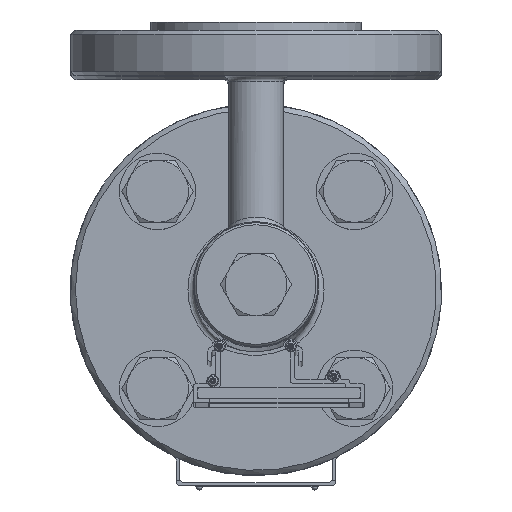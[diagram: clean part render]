
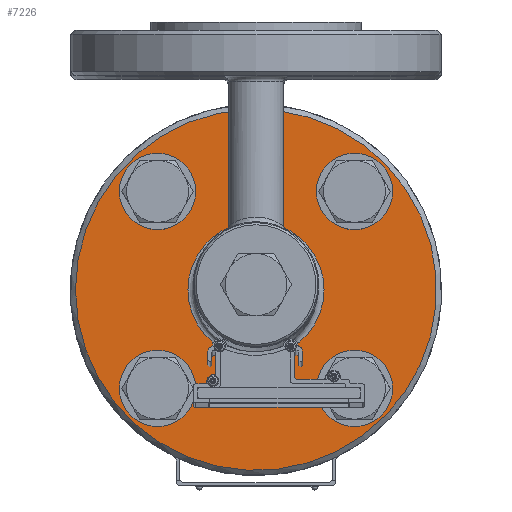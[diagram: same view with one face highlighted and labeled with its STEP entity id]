
A CAD part, top view. The second image highlights one B-rep face of the part: STEP entity #7226.
In plain terms, the highlighted planar face has unit normal (0, 0, 1).
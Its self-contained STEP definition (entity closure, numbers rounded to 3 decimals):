
#241=PLANE('',#7743);
#489=FACE_BOUND('',#1605,.T.);
#490=FACE_BOUND('',#1606,.T.);
#491=FACE_BOUND('',#1607,.T.);
#492=FACE_BOUND('',#1608,.T.);
#493=FACE_BOUND('',#1609,.T.);
#625=CIRCLE('',#7656,87.5);
#673=CIRCLE('',#7742,12.);
#674=CIRCLE('',#7744,12.);
#675=CIRCLE('',#7745,12.);
#676=CIRCLE('',#7746,33.);
#677=CIRCLE('',#7747,12.);
#1114=FACE_OUTER_BOUND('',#1604,.T.);
#1604=EDGE_LOOP('',(#5126));
#1605=EDGE_LOOP('',(#5127));
#1606=EDGE_LOOP('',(#5128));
#1607=EDGE_LOOP('',(#5129));
#1608=EDGE_LOOP('',(#5130));
#1609=EDGE_LOOP('',(#5131));
#3277=VERTEX_POINT('',#10847);
#3340=VERTEX_POINT('',#11048);
#3341=VERTEX_POINT('',#11051);
#3342=VERTEX_POINT('',#11053);
#3343=VERTEX_POINT('',#11055);
#3344=VERTEX_POINT('',#11057);
#3996=EDGE_CURVE('',#3277,#3277,#625,.T.);
#4068=EDGE_CURVE('',#3340,#3340,#673,.T.);
#4069=EDGE_CURVE('',#3341,#3341,#674,.T.);
#4070=EDGE_CURVE('',#3342,#3342,#675,.T.);
#4071=EDGE_CURVE('',#3343,#3343,#676,.T.);
#4072=EDGE_CURVE('',#3344,#3344,#677,.T.);
#5126=ORIENTED_EDGE('',*,*,#3996,.F.);
#5127=ORIENTED_EDGE('',*,*,#4069,.F.);
#5128=ORIENTED_EDGE('',*,*,#4070,.F.);
#5129=ORIENTED_EDGE('',*,*,#4071,.F.);
#5130=ORIENTED_EDGE('',*,*,#4072,.F.);
#5131=ORIENTED_EDGE('',*,*,#4068,.F.);
#7226=ADVANCED_FACE('',(#1114,#489,#490,#491,#492,#493),#241,.T.);
#7656=AXIS2_PLACEMENT_3D('',#10848,#8543,#8544);
#7742=AXIS2_PLACEMENT_3D('',#11049,#8729,#8730);
#7743=AXIS2_PLACEMENT_3D('',#11050,#8731,#8732);
#7744=AXIS2_PLACEMENT_3D('',#11052,#8733,#8734);
#7745=AXIS2_PLACEMENT_3D('',#11054,#8735,#8736);
#7746=AXIS2_PLACEMENT_3D('',#11056,#8737,#8738);
#7747=AXIS2_PLACEMENT_3D('',#11058,#8739,#8740);
#8543=DIRECTION('center_axis',(0.,0.,-1.));
#8544=DIRECTION('ref_axis',(1.,0.,0.));
#8729=DIRECTION('center_axis',(0.,0.,1.));
#8730=DIRECTION('ref_axis',(1.,0.,0.));
#8731=DIRECTION('center_axis',(0.,0.,1.));
#8732=DIRECTION('ref_axis',(1.,0.,0.));
#8733=DIRECTION('center_axis',(0.,0.,1.));
#8734=DIRECTION('ref_axis',(1.,0.,0.));
#8735=DIRECTION('center_axis',(0.,0.,1.));
#8736=DIRECTION('ref_axis',(1.,0.,0.));
#8737=DIRECTION('center_axis',(0.,0.,1.));
#8738=DIRECTION('ref_axis',(1.,0.,0.));
#8739=DIRECTION('center_axis',(0.,0.,1.));
#8740=DIRECTION('ref_axis',(1.,0.,0.));
#10847=CARTESIAN_POINT('',(-87.5,0.,26.));
#10848=CARTESIAN_POINT('Origin',(0.,0.,26.));
#11048=CARTESIAN_POINT('',(-59.73,47.73,26.));
#11049=CARTESIAN_POINT('Origin',(-47.73,47.73,26.));
#11050=CARTESIAN_POINT('Origin',(0.,0.,
26.));
#11051=CARTESIAN_POINT('',(35.73,47.73,26.));
#11052=CARTESIAN_POINT('Origin',(47.73,47.73,26.));
#11053=CARTESIAN_POINT('',(35.73,-47.73,26.));
#11054=CARTESIAN_POINT('Origin',(47.73,-47.73,26.));
#11055=CARTESIAN_POINT('',(-33.,0.,26.));
#11056=CARTESIAN_POINT('Origin',(0.,0.,26.));
#11057=CARTESIAN_POINT('',(-59.73,-47.73,26.));
#11058=CARTESIAN_POINT('Origin',(-47.73,-47.73,26.));
